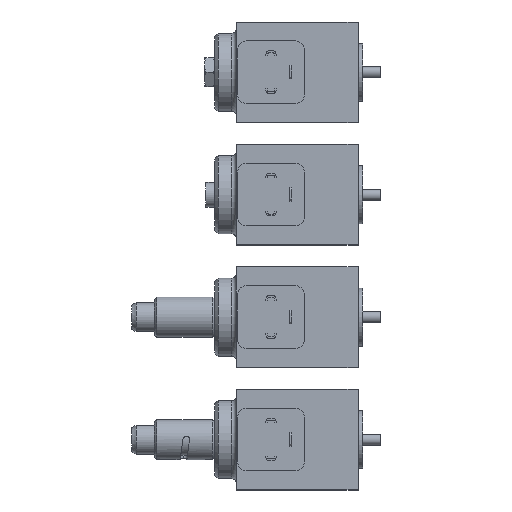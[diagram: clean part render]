
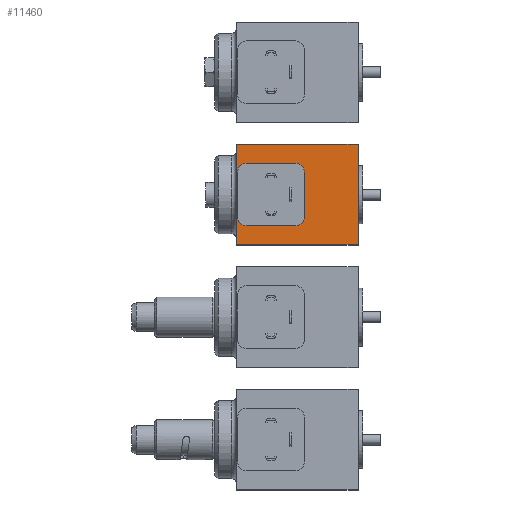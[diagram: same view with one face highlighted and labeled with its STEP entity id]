
A CAD part, top view. The second image highlights one B-rep face of the part: STEP entity #11460.
In plain terms, the highlighted planar face has unit normal (0, 0, 1).
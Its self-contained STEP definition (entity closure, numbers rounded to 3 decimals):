
#11460=ADVANCED_FACE('', (#11470,#11480,#11490,#11500,#11510), #11520, 
.T.);
#40440=AXIS2_PLACEMENT_3D('Ax2Pl3d', #40450, #40460, #40470);
#40520=AXIS2_PLACEMENT_3D('Ax2Pl3d', #40530, #40540, #40550);
#40560=AXIS2_PLACEMENT_3D('Ax2Pl3d', #40570, #40580, #40590);
#40600=AXIS2_PLACEMENT_3D('Ax2Pl3d', #40610, #40620, #40630);
#40640=AXIS2_PLACEMENT_3D('Ax2Pl3d', #40650, #40660, #40670);
#67530=CARTESIAN_POINT('', (54.5,155.,145.));
#67540=CARTESIAN_POINT('', (54.5,155.,145.));
#67550=CARTESIAN_POINT('', (54.5,110.,145.));
#40450=CARTESIAN_POINT('HicPkt', (12.,132.5,145.));
#67610=CARTESIAN_POINT('', (12.,140.,145.));
#40530=CARTESIAN_POINT('HicPkt', (0.,155.,145.));
#67630=CARTESIAN_POINT('', (0.,110.,145.));
#67640=CARTESIAN_POINT('', (0.,155.,145.));
#67650=CARTESIAN_POINT('', (0.,110.,145.));
#67660=CARTESIAN_POINT('', (54.5,110.,145.));
#67670=CARTESIAN_POINT('', (0.,155.,145.));
#40570=CARTESIAN_POINT('HicPkt', (22.5,132.5,145.));
#67680=CARTESIAN_POINT('', (22.5,134.,145.));
#40610=CARTESIAN_POINT('HicPkt', (6.75,141.75,145.));
#67690=CARTESIAN_POINT('', (6.75,143.25,145.));
#40650=CARTESIAN_POINT('HicPkt', (25.25,123.25,145.));
#67700=CARTESIAN_POINT('', (25.25,124.75,145.));
#73410=CIRCLE('Circle', #40440, 7.5);
#73430=CIRCLE('Circle', #40560, 1.5);
#73440=CIRCLE('Circle', #40600, 1.5);
#73450=CIRCLE('Circle', #40640, 1.5);
#110910=DIRECTION('', (0.,1.,0.));
#40460=DIRECTION('Axis', (0.,0.,1.));
#40470=DIRECTION('RefDirection', (1.,0.,0.));
#40540=DIRECTION('Axis', (0.,0.,1.));
#40550=DIRECTION('RefDirection', (1.,0.,0.));
#110930=DIRECTION('', (0.,-1.,0.));
#110940=DIRECTION('', (1.,0.,0.));
#110950=DIRECTION('', (-1.,0.,0.));
#40580=DIRECTION('Axis', (0.,0.,1.));
#40590=DIRECTION('RefDirection', (1.,0.,0.));
#40620=DIRECTION('Axis', (0.,0.,1.));
#40630=DIRECTION('RefDirection', (1.,0.,0.));
#40660=DIRECTION('Axis', (0.,0.,1.));
#40670=DIRECTION('RefDirection', (1.,0.,0.));
#126800=EDGE_CURVE('', #126810, #126780, #126820, .T.);
#126930=EDGE_CURVE('', #126940, #126940, #73410, .T.);
#126970=EDGE_CURVE('', #126980, #126990, #127000, .T.);
#127010=EDGE_CURVE('', #126990, #126810, #127020, .T.);
#127030=EDGE_CURVE('', #126780, #126980, #127040, .T.);
#127050=EDGE_CURVE('', #127060, #127060, #73430, .T.);
#127070=EDGE_CURVE('', #127080, #127080, #73440, .T.);
#127090=EDGE_CURVE('', #127100, #127100, #73450, .T.);
#150110=EDGE_LOOP('Edge_loop', (#150120,#150130,#150140,#150150));
#150160=EDGE_LOOP('Edge_loop', (#150170));
#150180=EDGE_LOOP('Edge_loop', (#150190));
#150200=EDGE_LOOP('Edge_loop', (#150210));
#150220=EDGE_LOOP('Edge_loop', (#150230));
#11480=FACE_BOUND('', #150160, .T.);
#11490=FACE_BOUND('', #150180, .T.);
#11500=FACE_BOUND('', #150200, .T.);
#11510=FACE_BOUND('', #150220, .T.);
#11470=FACE_OUTER_BOUND('Face_outer_bound', #150110, .T.);
#126820=LINE('Line', #67540, #172860);
#127000=LINE('Line', #67630, #172880);
#127020=LINE('Line', #67660, #172890);
#127040=LINE('Line', #67670, #172900);
#150120=ORIENTED_EDGE('', *, *, #126970, .T.);
#150130=ORIENTED_EDGE('', *, *, #127010, .T.);
#150140=ORIENTED_EDGE('', *, *, #126800, .T.);
#150150=ORIENTED_EDGE('', *, *, #127030, .T.);
#150170=ORIENTED_EDGE('', *, *, #126930, .F.);
#150190=ORIENTED_EDGE('', *, *, #127050, .F.);
#150210=ORIENTED_EDGE('', *, *, #127070, .F.);
#150230=ORIENTED_EDGE('', *, *, #127090, .F.);
#11520=PLANE('Plane', #40520);
#172860=VECTOR('', #110910, 45.);
#172880=VECTOR('', #110930, 45.);
#172890=VECTOR('', #110940, 54.5);
#172900=VECTOR('', #110950, 54.5);
#126780=VERTEX_POINT('', #67530);
#126810=VERTEX_POINT('', #67550);
#126940=VERTEX_POINT('', #67610);
#126980=VERTEX_POINT('', #67640);
#126990=VERTEX_POINT('', #67650);
#127060=VERTEX_POINT('', #67680);
#127080=VERTEX_POINT('', #67690);
#127100=VERTEX_POINT('', #67700);
